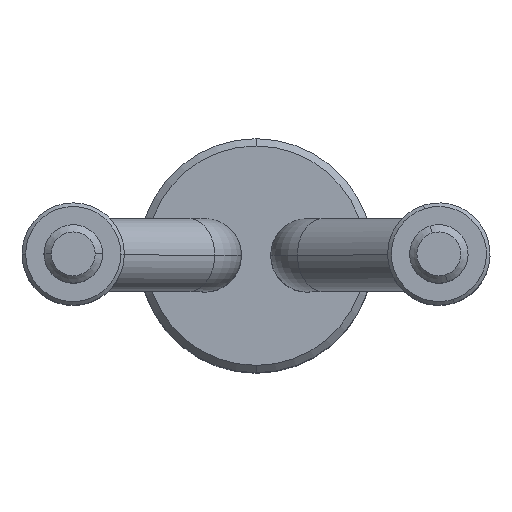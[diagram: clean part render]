
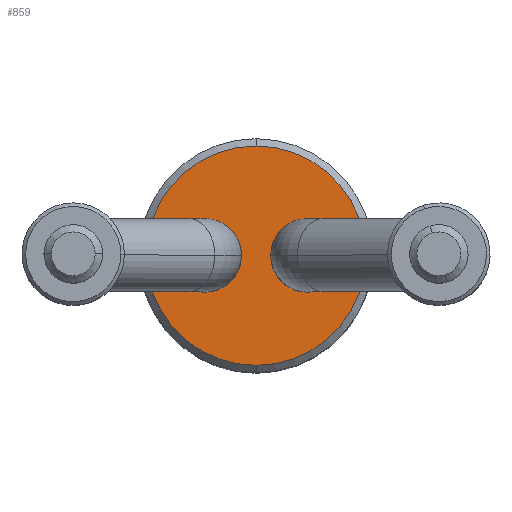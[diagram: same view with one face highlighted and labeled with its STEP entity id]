
A CAD part, top view. The second image highlights one B-rep face of the part: STEP entity #859.
In plain terms, the highlighted planar face has unit normal (0, 0, 1).
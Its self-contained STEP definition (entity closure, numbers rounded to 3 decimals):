
#11 = AXIS2_PLACEMENT_3D ( 'NONE', #1766, #1768, #1770 ) ;
#20 = CIRCLE ( 'NONE', #284, 5. ) ;
#119 = CIRCLE ( 'NONE', #189, 5. ) ;
#120 = AXIS2_PLACEMENT_3D ( 'NONE', #755, #624, #591 ) ;
#155 = CIRCLE ( 'NONE', #11, 15. ) ;
#181 = CIRCLE ( 'NONE', #120, 15. ) ;
#189 = AXIS2_PLACEMENT_3D ( 'NONE', #1744, #1837, #1840 ) ;
#198 = CIRCLE ( 'NONE', #264, 5. ) ;
#242 = CIRCLE ( 'NONE', #276, 5. ) ;
#264 = AXIS2_PLACEMENT_3D ( 'NONE', #1872, #1878, #1880 ) ;
#276 = AXIS2_PLACEMENT_3D ( 'NONE', #1757, #1787, #1278 ) ;
#284 = AXIS2_PLACEMENT_3D ( 'NONE', #1805, #1751, #1752 ) ;
#351 = EDGE_LOOP ( 'NONE', ( #970, #1238 ) ) ;
#376 = EDGE_LOOP ( 'NONE', ( #1451, #1621 ) ) ;
#395 = EDGE_LOOP ( 'NONE', ( #1351, #1275 ) ) ;
#591 = DIRECTION ( 'NONE',  ( 1., 0., 0. ) ) ;
#624 = DIRECTION ( 'NONE',  ( 0., 0., 1. ) ) ;
#755 = CARTESIAN_POINT ( 'NONE',  ( 0., 0., 85. ) ) ;
#859 = ADVANCED_FACE ( 'NONE', ( #1413, #1407, #1152 ), #1396, .T. ) ;
#903 = EDGE_CURVE ( 'NONE', #1171, #963, #155, .T. ) ;
#904 = EDGE_CURVE ( 'NONE', #1426, #1519, #242, .T. ) ;
#960 = VERTEX_POINT ( 'NONE', #1697 ) ;
#963 = VERTEX_POINT ( 'NONE', #1456 ) ;
#970 = ORIENTED_EDGE ( 'NONE', *, *, #1995, .F. ) ;
#1152 = FACE_BOUND ( 'NONE', #351, .T. ) ;
#1171 = VERTEX_POINT ( 'NONE', #1699 ) ;
#1181 = CARTESIAN_POINT ( 'NONE',  ( 15., 0., 85. ) ) ;
#1238 = ORIENTED_EDGE ( 'NONE', *, *, #1988, .F. ) ;
#1275 = ORIENTED_EDGE ( 'NONE', *, *, #903, .T. ) ;
#1278 = DIRECTION ( 'NONE',  ( 1., 0., 0. ) ) ;
#1302 = VERTEX_POINT ( 'NONE', #1835 ) ;
#1351 = ORIENTED_EDGE ( 'NONE', *, *, #2000, .T. ) ;
#1359 = DIRECTION ( 'NONE',  ( 0., 0., 1. ) ) ;
#1375 = DIRECTION ( 'NONE',  ( 1., 0., 0. ) ) ;
#1396 = PLANE ( 'NONE',  #1901 ) ;
#1407 = FACE_OUTER_BOUND ( 'NONE', #395, .T. ) ;
#1413 = FACE_BOUND ( 'NONE', #376, .T. ) ;
#1426 = VERTEX_POINT ( 'NONE', #1836 ) ;
#1451 = ORIENTED_EDGE ( 'NONE', *, *, #904, .F. ) ;
#1456 = CARTESIAN_POINT ( 'NONE',  ( 0., 15., 85. ) ) ;
#1519 = VERTEX_POINT ( 'NONE', #1813 ) ;
#1621 = ORIENTED_EDGE ( 'NONE', *, *, #1944, .F. ) ;
#1697 = CARTESIAN_POINT ( 'NONE',  ( 2., 0., 85. ) ) ;
#1699 = CARTESIAN_POINT ( 'NONE',  ( 0., -15., 85. ) ) ;
#1744 = CARTESIAN_POINT ( 'NONE',  ( 7., 0., 85. ) ) ;
#1751 = DIRECTION ( 'NONE',  ( 0., 0., 1. ) ) ;
#1752 = DIRECTION ( 'NONE',  ( 1., 0., 0. ) ) ;
#1757 = CARTESIAN_POINT ( 'NONE',  ( -7., 0., 85. ) ) ;
#1766 = CARTESIAN_POINT ( 'NONE',  ( 0., 0., 85. ) ) ;
#1768 = DIRECTION ( 'NONE',  ( 0., 0., 1. ) ) ;
#1770 = DIRECTION ( 'NONE',  ( 1., 0., 0. ) ) ;
#1787 = DIRECTION ( 'NONE',  ( 0., 0., 1. ) ) ;
#1805 = CARTESIAN_POINT ( 'NONE',  ( -7., 0., 85. ) ) ;
#1813 = CARTESIAN_POINT ( 'NONE',  ( -2., 0., 85. ) ) ;
#1835 = CARTESIAN_POINT ( 'NONE',  ( 12., 0., 85. ) ) ;
#1836 = CARTESIAN_POINT ( 'NONE',  ( -12., 0., 85. ) ) ;
#1837 = DIRECTION ( 'NONE',  ( 0., 0., 1. ) ) ;
#1840 = DIRECTION ( 'NONE',  ( -1., 0., 0. ) ) ;
#1872 = CARTESIAN_POINT ( 'NONE',  ( 7., 0., 85. ) ) ;
#1878 = DIRECTION ( 'NONE',  ( 0., 0., 1. ) ) ;
#1880 = DIRECTION ( 'NONE',  ( -1., 0., 0. ) ) ;
#1901 = AXIS2_PLACEMENT_3D ( 'NONE', #1181, #1359, #1375 ) ;
#1944 = EDGE_CURVE ( 'NONE', #1519, #1426, #20, .T. ) ;
#1988 = EDGE_CURVE ( 'NONE', #960, #1302, #198, .T. ) ;
#1995 = EDGE_CURVE ( 'NONE', #1302, #960, #119, .T. ) ;
#2000 = EDGE_CURVE ( 'NONE', #963, #1171, #181, .T. ) ;
